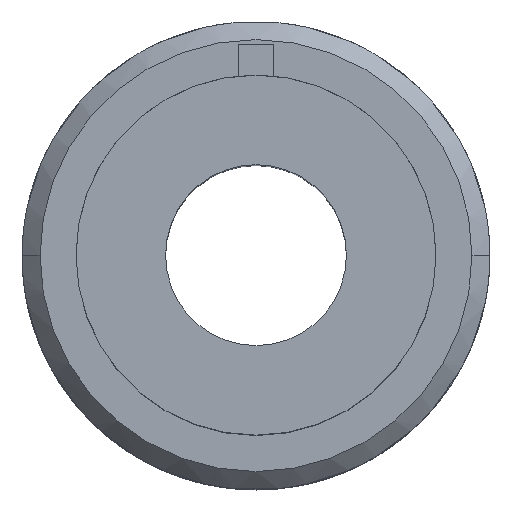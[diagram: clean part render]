
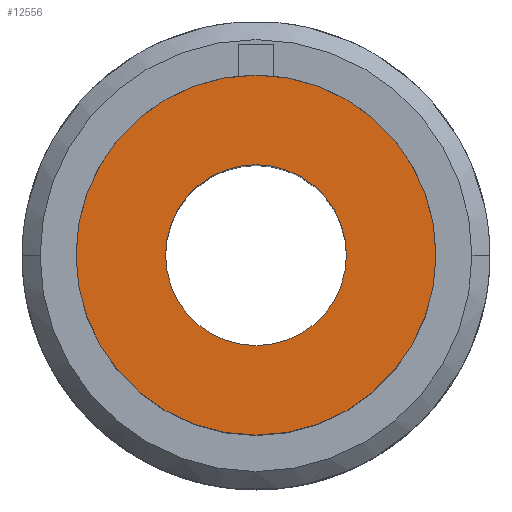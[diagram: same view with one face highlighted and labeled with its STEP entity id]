
A CAD part, top view. The second image highlights one B-rep face of the part: STEP entity #12556.
In plain terms, the highlighted planar face has unit normal (0, 0, 1).
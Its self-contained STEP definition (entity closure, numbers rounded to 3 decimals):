
#26 = EDGE_LOOP ( 'NONE', ( #523, #4938 ) ) ;
#254 = AXIS2_PLACEMENT_3D ( 'NONE', #5059, #15424, #11196 ) ;
#523 = ORIENTED_EDGE ( 'NONE', *, *, #868, .T. ) ;
#868 = EDGE_CURVE ( 'NONE', #18897, #2026, #11266, .T. ) ;
#1043 = DIRECTION ( 'NONE',  ( 1., 0., 0. ) ) ;
#1314 = CARTESIAN_POINT ( 'NONE',  ( 0., 0., 14. ) ) ;
#1963 = AXIS2_PLACEMENT_3D ( 'NONE', #14758, #8768, #11412 ) ;
#2026 = VERTEX_POINT ( 'NONE', #10901 ) ;
#2674 = CARTESIAN_POINT ( 'NONE',  ( 5.025, 0., 14. ) ) ;
#3023 = CIRCLE ( 'NONE', #254, 10. ) ;
#3366 = AXIS2_PLACEMENT_3D ( 'NONE', #13330, #5944, #11886 ) ;
#4715 = ORIENTED_EDGE ( 'NONE', *, *, #12848, .F. ) ;
#4938 = ORIENTED_EDGE ( 'NONE', *, *, #18873, .T. ) ;
#5059 = CARTESIAN_POINT ( 'NONE',  ( 0., 0., 14. ) ) ;
#5797 = AXIS2_PLACEMENT_3D ( 'NONE', #1314, #18716, #11320 ) ;
#5944 = DIRECTION ( 'NONE',  ( 0., 0., 1. ) ) ;
#6479 = VERTEX_POINT ( 'NONE', #10571 ) ;
#6753 = CIRCLE ( 'NONE', #3366, 5.025 ) ;
#8204 = EDGE_CURVE ( 'NONE', #6479, #11428, #6753, .T. ) ;
#8407 = FACE_OUTER_BOUND ( 'NONE', #26, .T. ) ;
#8504 = PLANE ( 'NONE',  #12645 ) ;
#8599 = DIRECTION ( 'NONE',  ( 0., 0., 1. ) ) ;
#8768 = DIRECTION ( 'NONE',  ( 0., 0., 1. ) ) ;
#9230 = CIRCLE ( 'NONE', #5797, 5.025 ) ;
#10571 = CARTESIAN_POINT ( 'NONE',  ( -5.025, 0., 14. ) ) ;
#10901 = CARTESIAN_POINT ( 'NONE',  ( 10., 0., 14. ) ) ;
#11010 = EDGE_LOOP ( 'NONE', ( #4715, #13606 ) ) ;
#11196 = DIRECTION ( 'NONE',  ( 1., 0., 0. ) ) ;
#11266 = CIRCLE ( 'NONE', #1963, 10. ) ;
#11320 = DIRECTION ( 'NONE',  ( 1., 0., 0. ) ) ;
#11412 = DIRECTION ( 'NONE',  ( 1., 0., 0. ) ) ;
#11428 = VERTEX_POINT ( 'NONE', #2674 ) ;
#11886 = DIRECTION ( 'NONE',  ( 1., 0., 0. ) ) ;
#12556 = ADVANCED_FACE ( 'NONE', ( #15857, #8407 ), #8504, .T. ) ;
#12645 = AXIS2_PLACEMENT_3D ( 'NONE', #14318, #8599, #1043 ) ;
#12848 = EDGE_CURVE ( 'NONE', #11428, #6479, #9230, .T. ) ;
#13330 = CARTESIAN_POINT ( 'NONE',  ( 0., 0., 14. ) ) ;
#13606 = ORIENTED_EDGE ( 'NONE', *, *, #8204, .F. ) ;
#14318 = CARTESIAN_POINT ( 'NONE',  ( 0., 0., 14. ) ) ;
#14758 = CARTESIAN_POINT ( 'NONE',  ( 0., 0., 14. ) ) ;
#15424 = DIRECTION ( 'NONE',  ( 0., 0., 1. ) ) ;
#15857 = FACE_BOUND ( 'NONE', #11010, .T. ) ;
#16852 = CARTESIAN_POINT ( 'NONE',  ( -10., 0., 14. ) ) ;
#18716 = DIRECTION ( 'NONE',  ( 0., 0., 1. ) ) ;
#18873 = EDGE_CURVE ( 'NONE', #2026, #18897, #3023, .T. ) ;
#18897 = VERTEX_POINT ( 'NONE', #16852 ) ;
